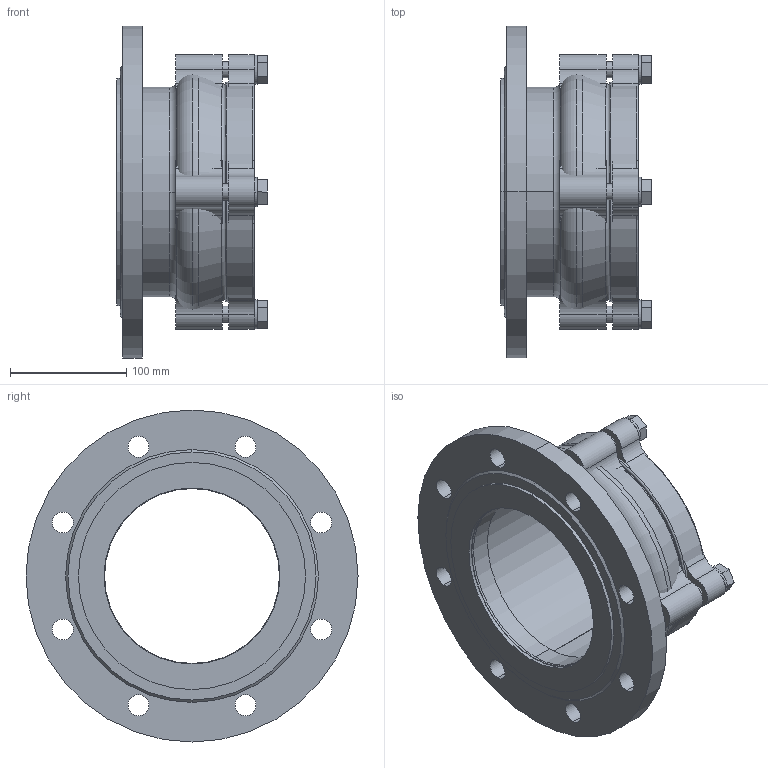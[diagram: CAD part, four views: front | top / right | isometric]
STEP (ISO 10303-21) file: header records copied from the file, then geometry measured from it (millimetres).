
FILE_DESCRIPTION(('STEP AP214'),'1');
FILE_NAME('U:/VDI-Daten/7200-(0400)/7200_PN16_DN150_160.STP','2012-06-15T09:55:15',(' '),(' '),'Spatial InterOp 3D',' ',' ');
FILE_SCHEMA(('automotive_design'));
Length unit declared in the file: millimetre
Products named in the file (26): 3D-Objekt
Bounding box: 129.3 x 285 x 285 mm (x, y, z)
Volume: 1909702.7 mm3; surface area: 498548.2 mm2
Topology: 26 solids, 26 shells, 201 faces, 440 edges, 292 vertices
Faces by surface type: plane 93, cylinder 90, torus 12, cone 6
Entity records: 7870 total; most frequent: DIRECTION 1118, CARTESIAN_POINT 959, ORIENTED_EDGE 880, AXIS2_PLACEMENT_3D 451, EDGE_CURVE 440, VERTEX_POINT 292, EDGE_LOOP 230, STYLED_ITEM 227
